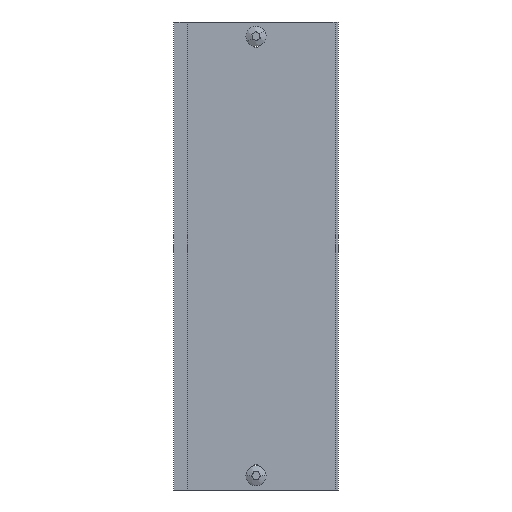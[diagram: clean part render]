
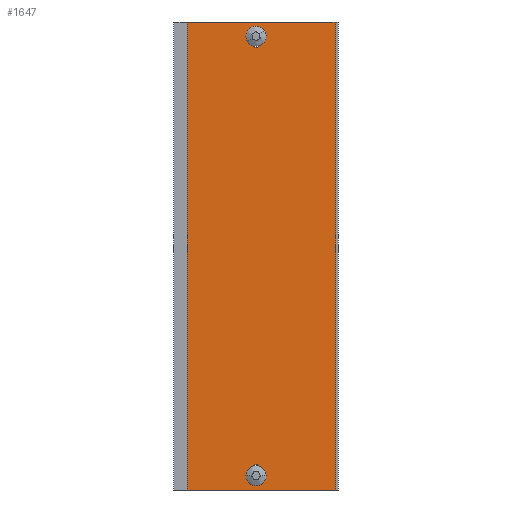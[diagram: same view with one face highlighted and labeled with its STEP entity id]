
A CAD part, front view. The second image highlights one B-rep face of the part: STEP entity #1647.
In plain terms, the highlighted planar face has unit normal (0, -1, 0).
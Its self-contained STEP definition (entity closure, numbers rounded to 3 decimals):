
#2 = DIRECTION ( 'NONE',  ( -1., 0., 0. ) ) ;
#6 = VECTOR ( 'NONE', #770, 1000. ) ;
#7 = EDGE_LOOP ( 'NONE', ( #346, #1056, #323, #1208, #1314, #687, #1681, #1958 ) ) ;
#12 = CARTESIAN_POINT ( 'NONE',  ( -4.8, 11., 279. ) ) ;
#23 = EDGE_CURVE ( 'NONE', #937, #86, #739, .T. ) ;
#26 = CARTESIAN_POINT ( 'NONE',  ( 41., 11., 8.5 ) ) ;
#28 = CIRCLE ( 'NONE', #788, 3.5 ) ;
#54 = VECTOR ( 'NONE', #618, 1000. ) ;
#81 = VERTEX_POINT ( 'NONE', #1364 ) ;
#86 = VERTEX_POINT ( 'NONE', #106 ) ;
#106 = CARTESIAN_POINT ( 'NONE',  ( 44.5, 11., 270.5 ) ) ;
#111 = ORIENTED_EDGE ( 'NONE', *, *, #1217, .T. ) ;
#129 = LINE ( 'NONE', #1839, #6 ) ;
#143 = CARTESIAN_POINT ( 'NONE',  ( 37.5, 11., 270.5 ) ) ;
#165 = ORIENTED_EDGE ( 'NONE', *, *, #792, .T. ) ;
#180 = CARTESIAN_POINT ( 'NONE',  ( 44.5, 11., 8.5 ) ) ;
#196 = CARTESIAN_POINT ( 'NONE',  ( -8., 11., 279. ) ) ;
#231 = EDGE_CURVE ( 'NONE', #387, #997, #497, .T. ) ;
#232 = DIRECTION ( 'NONE',  ( 0., 1., 0. ) ) ;
#234 = DIRECTION ( 'NONE',  ( 0., 0., -1. ) ) ;
#267 = VECTOR ( 'NONE', #1200, 1000. ) ;
#282 = EDGE_CURVE ( 'NONE', #1772, #561, #963, .T. ) ;
#287 = CARTESIAN_POINT ( 'NONE',  ( 88.5, 11., 0. ) ) ;
#311 = VECTOR ( 'NONE', #2, 1000. ) ;
#318 = LINE ( 'NONE', #942, #1794 ) ;
#323 = ORIENTED_EDGE ( 'NONE', *, *, #783, .F. ) ;
#337 = CARTESIAN_POINT ( 'NONE',  ( -4.8, 11., 279. ) ) ;
#346 = ORIENTED_EDGE ( 'NONE', *, *, #1233, .F. ) ;
#362 = LINE ( 'NONE', #990, #1302 ) ;
#371 = ORIENTED_EDGE ( 'NONE', *, *, #23, .T. ) ;
#376 = AXIS2_PLACEMENT_3D ( 'NONE', #394, #1021, #1639 ) ;
#386 = FACE_OUTER_BOUND ( 'NONE', #7, .T. ) ;
#387 = VERTEX_POINT ( 'NONE', #678 ) ;
#394 = CARTESIAN_POINT ( 'NONE',  ( 41., 11., 270.5 ) ) ;
#399 = AXIS2_PLACEMENT_3D ( 'NONE', #196, #232, #1756 ) ;
#430 = ORIENTED_EDGE ( 'NONE', *, *, #2021, .T. ) ;
#441 = DIRECTION ( 'NONE',  ( 0., 1., 0. ) ) ;
#445 = EDGE_CURVE ( 'NONE', #1979, #986, #691, .T. ) ;
#454 = VERTEX_POINT ( 'NONE', #1799 ) ;
#460 = LINE ( 'NONE', #287, #311 ) ;
#463 = ORIENTED_EDGE ( 'NONE', *, *, #282, .F. ) ;
#479 = CARTESIAN_POINT ( 'NONE',  ( 41., 11., 267.5 ) ) ;
#497 = CIRCLE ( 'NONE', #1193, 3.5 ) ;
#504 = LINE ( 'NONE', #337, #1719 ) ;
#505 = EDGE_CURVE ( 'NONE', #997, #937, #1705, .T. ) ;
#509 = FACE_BOUND ( 'NONE', #1182, .T. ) ;
#561 = VERTEX_POINT ( 'NONE', #1088 ) ;
#591 = AXIS2_PLACEMENT_3D ( 'NONE', #1072, #1694, #1228 ) ;
#592 = AXIS2_PLACEMENT_3D ( 'NONE', #26, #1600, #1621 ) ;
#599 = CARTESIAN_POINT ( 'NONE',  ( 86.8, 11., 0. ) ) ;
#618 = DIRECTION ( 'NONE',  ( -1., 0., 0. ) ) ;
#663 = CARTESIAN_POINT ( 'NONE',  ( 37.5, 11., 267.5 ) ) ;
#678 = CARTESIAN_POINT ( 'NONE',  ( 41., 11., 264. ) ) ;
#687 = ORIENTED_EDGE ( 'NONE', *, *, #1855, .F. ) ;
#691 = LINE ( 'NONE', #1332, #887 ) ;
#737 = DIRECTION ( 'NONE',  ( 1., 0., 0. ) ) ;
#739 = CIRCLE ( 'NONE', #376, 3.5 ) ;
#766 = EDGE_CURVE ( 'NONE', #81, #1834, #1813, .T. ) ;
#768 = CARTESIAN_POINT ( 'NONE',  ( 86.8, 11., 0. ) ) ;
#770 = DIRECTION ( 'NONE',  ( 0., 0., 1. ) ) ;
#772 = DIRECTION ( 'NONE',  ( 0., 0., 1. ) ) ;
#783 = EDGE_CURVE ( 'NONE', #1018, #1114, #1183, .T. ) ;
#788 = AXIS2_PLACEMENT_3D ( 'NONE', #1502, #1976, #234 ) ;
#792 = EDGE_CURVE ( 'NONE', #1618, #1834, #28, .T. ) ;
#851 = DIRECTION ( 'NONE',  ( -1., 0., 0. ) ) ;
#877 = CARTESIAN_POINT ( 'NONE',  ( 86.8, 11., 279. ) ) ;
#887 = VECTOR ( 'NONE', #851, 1000. ) ;
#933 = EDGE_CURVE ( 'NONE', #1114, #454, #1902, .T. ) ;
#937 = VERTEX_POINT ( 'NONE', #1588 ) ;
#942 = CARTESIAN_POINT ( 'NONE',  ( 44.5, 11., 270.5 ) ) ;
#963 = LINE ( 'NONE', #180, #1968 ) ;
#977 = CARTESIAN_POINT ( 'NONE',  ( 88.5, 11., 279. ) ) ;
#986 = VERTEX_POINT ( 'NONE', #1140 ) ;
#990 = CARTESIAN_POINT ( 'NONE',  ( -6.5, 11., 279. ) ) ;
#997 = VERTEX_POINT ( 'NONE', #663 ) ;
#1013 = DIRECTION ( 'NONE',  ( 1., 0., 0. ) ) ;
#1018 = VERTEX_POINT ( 'NONE', #877 ) ;
#1020 = VECTOR ( 'NONE', #772, 1000. ) ;
#1021 = DIRECTION ( 'NONE',  ( 0., 1., 0. ) ) ;
#1035 = CARTESIAN_POINT ( 'NONE',  ( 90., 11., 279. ) ) ;
#1056 = ORIENTED_EDGE ( 'NONE', *, *, #933, .F. ) ;
#1062 = DIRECTION ( 'NONE',  ( 0., 0., -1. ) ) ;
#1072 = CARTESIAN_POINT ( 'NONE',  ( 41., 11., 11.5 ) ) ;
#1088 = CARTESIAN_POINT ( 'NONE',  ( 44.5, 11., 11.5 ) ) ;
#1093 = AXIS2_PLACEMENT_3D ( 'NONE', #1220, #441, #1062 ) ;
#1094 = CARTESIAN_POINT ( 'NONE',  ( 44.5, 11., 267.5 ) ) ;
#1114 = VERTEX_POINT ( 'NONE', #1375 ) ;
#1128 = DIRECTION ( 'NONE',  ( 1., 0., 0. ) ) ;
#1140 = CARTESIAN_POINT ( 'NONE',  ( -6.5, 11., 0. ) ) ;
#1145 = VERTEX_POINT ( 'NONE', #1094 ) ;
#1155 = PLANE ( 'NONE',  #399 ) ;
#1182 = EDGE_LOOP ( 'NONE', ( #371, #1311, #430, #1487, #1932 ) ) ;
#1183 = LINE ( 'NONE', #1035, #1802 ) ;
#1193 = AXIS2_PLACEMENT_3D ( 'NONE', #479, #1710, #1858 ) ;
#1200 = DIRECTION ( 'NONE',  ( 0., 0., -1. ) ) ;
#1208 = ORIENTED_EDGE ( 'NONE', *, *, #1768, .F. ) ;
#1217 = EDGE_CURVE ( 'NONE', #81, #561, #1599, .T. ) ;
#1220 = CARTESIAN_POINT ( 'NONE',  ( 41., 11., 267.5 ) ) ;
#1228 = DIRECTION ( 'NONE',  ( 0., 0., -1. ) ) ;
#1229 = CARTESIAN_POINT ( 'NONE',  ( -4.8, 11., 0. ) ) ;
#1233 = EDGE_CURVE ( 'NONE', #454, #2015, #1385, .T. ) ;
#1251 = EDGE_CURVE ( 'NONE', #1653, #1568, #504, .T. ) ;
#1302 = VECTOR ( 'NONE', #1013, 1000. ) ;
#1311 = ORIENTED_EDGE ( 'NONE', *, *, #1430, .T. ) ;
#1314 = ORIENTED_EDGE ( 'NONE', *, *, #1251, .F. ) ;
#1329 = CIRCLE ( 'NONE', #1093, 3.5 ) ;
#1332 = CARTESIAN_POINT ( 'NONE',  ( -8., 11., 0. ) ) ;
#1364 = CARTESIAN_POINT ( 'NONE',  ( 37.5, 11., 11.5 ) ) ;
#1375 = CARTESIAN_POINT ( 'NONE',  ( 88.5, 11., 279. ) ) ;
#1385 = LINE ( 'NONE', #768, #54 ) ;
#1430 = EDGE_CURVE ( 'NONE', #86, #1145, #318, .T. ) ;
#1459 = ORIENTED_EDGE ( 'NONE', *, *, #1739, .T. ) ;
#1466 = CARTESIAN_POINT ( 'NONE',  ( -6.5, 11., 279. ) ) ;
#1487 = ORIENTED_EDGE ( 'NONE', *, *, #231, .T. ) ;
#1494 = CARTESIAN_POINT ( 'NONE',  ( 37.5, 11., 8.5 ) ) ;
#1502 = CARTESIAN_POINT ( 'NONE',  ( 41., 11., 8.5 ) ) ;
#1506 = VECTOR ( 'NONE', #1769, 1000. ) ;
#1566 = DIRECTION ( 'NONE',  ( 0., 0., -1. ) ) ;
#1568 = VERTEX_POINT ( 'NONE', #12 ) ;
#1588 = CARTESIAN_POINT ( 'NONE',  ( 37.5, 11., 270.5 ) ) ;
#1589 = FACE_BOUND ( 'NONE', #1783, .T. ) ;
#1599 = CIRCLE ( 'NONE', #591, 3.5 ) ;
#1600 = DIRECTION ( 'NONE',  ( 0., 1., 0. ) ) ;
#1618 = VERTEX_POINT ( 'NONE', #1989 ) ;
#1621 = DIRECTION ( 'NONE',  ( 0., 0., -1. ) ) ;
#1634 = CIRCLE ( 'NONE', #592, 3.5 ) ;
#1639 = DIRECTION ( 'NONE',  ( 0., 0., -1. ) ) ;
#1647 = ADVANCED_FACE ( 'NONE', ( #1589, #509, #386 ), #1155, .F. ) ;
#1653 = VERTEX_POINT ( 'NONE', #1466 ) ;
#1669 = CARTESIAN_POINT ( 'NONE',  ( 37.5, 11., 8.5 ) ) ;
#1681 = ORIENTED_EDGE ( 'NONE', *, *, #445, .F. ) ;
#1694 = DIRECTION ( 'NONE',  ( 0., 1., 0. ) ) ;
#1705 = LINE ( 'NONE', #143, #1020 ) ;
#1706 = ORIENTED_EDGE ( 'NONE', *, *, #766, .F. ) ;
#1710 = DIRECTION ( 'NONE',  ( 0., 1., 0. ) ) ;
#1719 = VECTOR ( 'NONE', #1128, 1000. ) ;
#1739 = EDGE_CURVE ( 'NONE', #1772, #1618, #1634, .T. ) ;
#1756 = DIRECTION ( 'NONE',  ( 0., 0., 1. ) ) ;
#1768 = EDGE_CURVE ( 'NONE', #1568, #1018, #362, .T. ) ;
#1769 = DIRECTION ( 'NONE',  ( 0., 0., -1. ) ) ;
#1772 = VERTEX_POINT ( 'NONE', #1926 ) ;
#1783 = EDGE_LOOP ( 'NONE', ( #165, #1706, #111, #463, #1459 ) ) ;
#1794 = VECTOR ( 'NONE', #1566, 1000. ) ;
#1799 = CARTESIAN_POINT ( 'NONE',  ( 88.5, 11., 0. ) ) ;
#1802 = VECTOR ( 'NONE', #737, 1000. ) ;
#1813 = LINE ( 'NONE', #1494, #267 ) ;
#1834 = VERTEX_POINT ( 'NONE', #1669 ) ;
#1839 = CARTESIAN_POINT ( 'NONE',  ( -6.5, 11., 279. ) ) ;
#1855 = EDGE_CURVE ( 'NONE', #986, #1653, #129, .T. ) ;
#1858 = DIRECTION ( 'NONE',  ( 0., 0., -1. ) ) ;
#1898 = DIRECTION ( 'NONE',  ( 0., 0., 1. ) ) ;
#1902 = LINE ( 'NONE', #977, #1506 ) ;
#1926 = CARTESIAN_POINT ( 'NONE',  ( 44.5, 11., 8.5 ) ) ;
#1932 = ORIENTED_EDGE ( 'NONE', *, *, #505, .T. ) ;
#1958 = ORIENTED_EDGE ( 'NONE', *, *, #2000, .F. ) ;
#1968 = VECTOR ( 'NONE', #1898, 1000. ) ;
#1976 = DIRECTION ( 'NONE',  ( 0., 1., 0. ) ) ;
#1979 = VERTEX_POINT ( 'NONE', #1229 ) ;
#1989 = CARTESIAN_POINT ( 'NONE',  ( 41., 11., 5. ) ) ;
#2000 = EDGE_CURVE ( 'NONE', #2015, #1979, #460, .T. ) ;
#2015 = VERTEX_POINT ( 'NONE', #599 ) ;
#2021 = EDGE_CURVE ( 'NONE', #1145, #387, #1329, .T. ) ;
